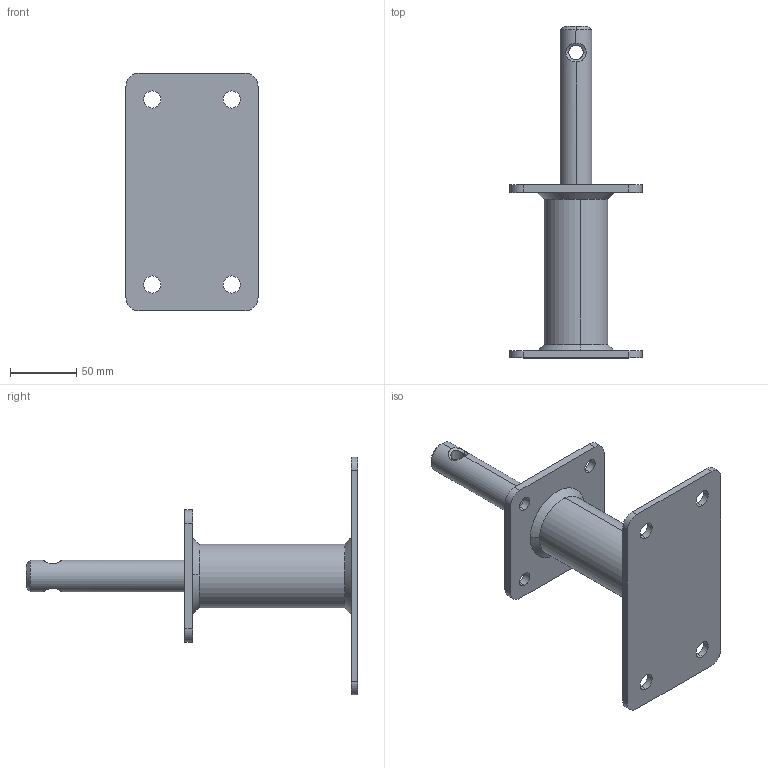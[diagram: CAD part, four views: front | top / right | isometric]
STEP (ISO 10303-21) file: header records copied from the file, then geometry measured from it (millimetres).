
FILE_DESCRIPTION (( 'STEP AP203' ), '1' );
FILE_NAME ('19823120.STEP', '2021-04-19T16:48:36', ( '' ), ( '' ), 'SwSTEP 2.0', 'SolidWorks 2013', '' );
FILE_SCHEMA (( 'CONFIG_CONTROL_DESIGN' ));
Length unit declared in the file: millimetre
Products named in the file (6): Standrohr-48,3x120x3,25; 19823120; 100x100x6-4xd11-1xd21; 180x100x5-4xd13-abgerundet; Schweissnaht-d48mm; 24x120
Assembly tree (6 placements, depth 2):
  19823120
    180x100x5-4xd13-abgerundet
    Schweissnaht-d48mm  x2
    Standrohr-48,3x120x3,25
    100x100x6-4xd11-1xd21
    24x120
Bounding box: 100 x 251 x 180 mm (x, y, z)
Volume: 255359.3 mm3; surface area: 111214.9 mm2
Topology: 6 solids, 6 shells, 64 faces, 160 edges, 104 vertices
Faces by surface type: cylinder 36, plane 18, bspline 8, cone 2
Entity records: 6350 total; most frequent: CARTESIAN_POINT 4228, DIRECTION 314, ORIENTED_EDGE 300, EDGE_CURVE 150, AXIS2_PLACEMENT_3D 126, VERTEX_POINT 98, EDGE_LOOP 78, CIRCLE 64
